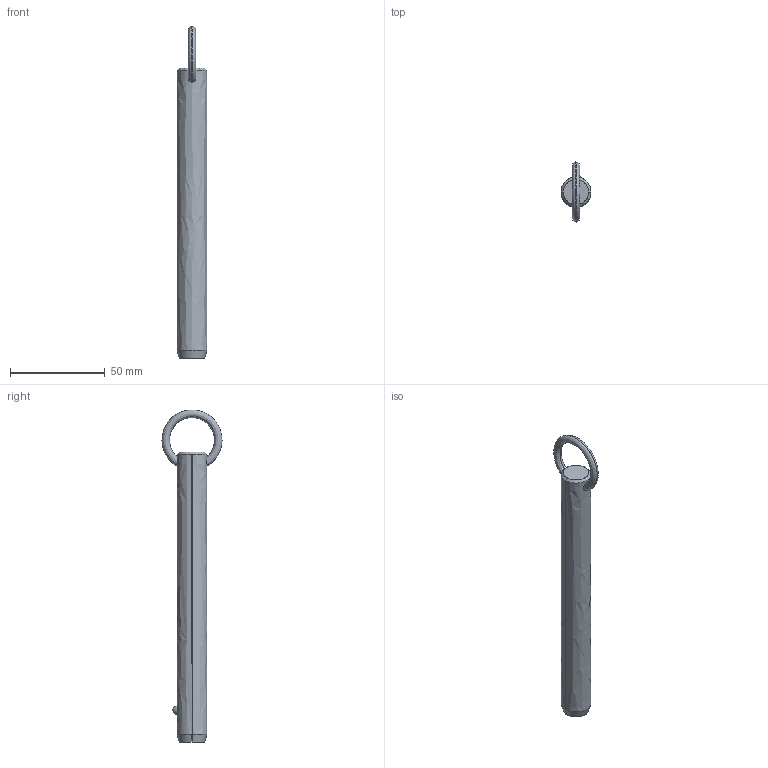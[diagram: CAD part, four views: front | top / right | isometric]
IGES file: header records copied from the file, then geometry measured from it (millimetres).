
Start section: SolidWorks IGES file using analytic representation for surfaces
Global section: file name: C:\Users\liam_\OneDrive\Documents\WORK\Work for WixRoyd\Job Files\J-00019 - Matt Davis CAD Checking\04. CAD Drawings\automotion20190605\P1250.2_v2\P1250.2_v2_20190729_IGES\P1250.062-490.igs; native system: SolidWorks 2017; preprocessor: SolidWorks 2017; author: liam_; date: 190729.233859; units: millimetre
Bounding box: 15.8 x 31.7 x 175.2 mm (x, y, z)
Surface area: 8768.3 mm2 (no closed solid volume)
Topology: 0 solids, 0 shells, 12 faces, 292 edges, 290 vertices
Faces by surface type: revolution 8, bspline 4
